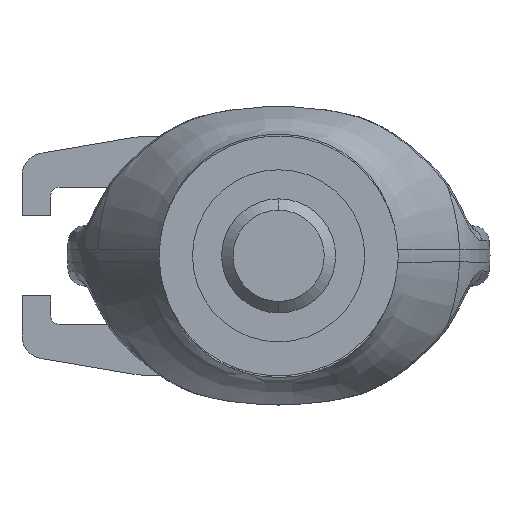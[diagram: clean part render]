
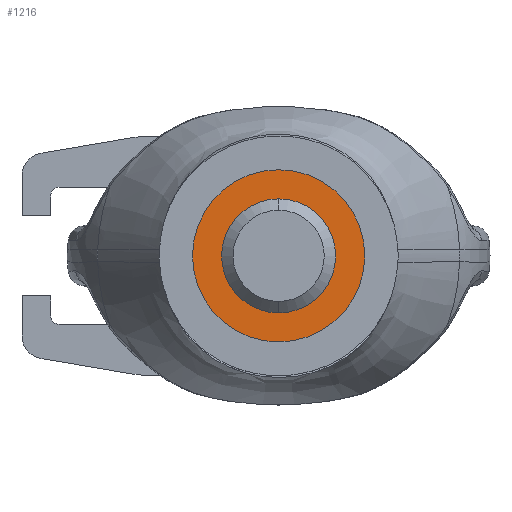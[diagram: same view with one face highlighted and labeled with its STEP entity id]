
A CAD part, front view. The second image highlights one B-rep face of the part: STEP entity #1216.
In plain terms, the highlighted planar face has unit normal (0, -1, 0).
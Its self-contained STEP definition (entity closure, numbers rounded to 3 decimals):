
#1216=ADVANCED_FACE('',(#2484,#2485),#2486,.T.);
#2484=FACE_OUTER_BOUND('',#18051,.T.);
#2485=FACE_BOUND('',#18052,.T.);
#2486=PLANE('',#18053);
#18051=EDGE_LOOP('',(#21087,#21088));
#18052=EDGE_LOOP('',(#21089,#21090));
#18053=AXIS2_PLACEMENT_3D('',#21091,#21092,#21093);
#21087=ORIENTED_EDGE('',*,*,#22917,.F.);
#21088=ORIENTED_EDGE('',*,*,#22900,.F.);
#21089=ORIENTED_EDGE('',*,*,#22903,.F.);
#21090=ORIENTED_EDGE('',*,*,#22915,.F.);
#21091=CARTESIAN_POINT('',(12.655,-38.5,0.));
#21092=DIRECTION('',(0.0,-1.0,0.0));
#21093=DIRECTION('',(0.0,0.0,-1.0));
#22900=EDGE_CURVE('',#25025,#25021,#25027,.F.);
#22903=EDGE_CURVE('',#25029,#25032,#25033,.T.);
#22915=EDGE_CURVE('',#25032,#25029,#25048,.T.);
#22917=EDGE_CURVE('',#25021,#25025,#25050,.F.);
#25021=VERTEX_POINT('',#37549);
#25025=VERTEX_POINT('',#37554);
#25027=CIRCLE('',#37557,15.1);
#25029=VERTEX_POINT('',#37559);
#25032=VERTEX_POINT('',#37563);
#25033=CIRCLE('',#37564,10.0);
#25048=CIRCLE('',#37582,10.0);
#25050=CIRCLE('',#37584,15.1);
#37549=CARTESIAN_POINT('',(0.,-38.5,-15.1));
#37554=CARTESIAN_POINT('',(0.,-38.5,15.1));
#37557=AXIS2_PLACEMENT_3D('',#39126,#39127,#39128);
#37559=CARTESIAN_POINT('',(0.,-38.5,-10.0));
#37563=CARTESIAN_POINT('',(0.,-38.5,10.0));
#37564=AXIS2_PLACEMENT_3D('',#39130,#39131,#39132);
#37582=AXIS2_PLACEMENT_3D('',#39148,#39149,#39150);
#37584=AXIS2_PLACEMENT_3D('',#39151,#39152,#39153);
#39126=CARTESIAN_POINT('',(0.,-38.5,0.));
#39127=DIRECTION('',(0.0,-1.0,0.0));
#39128=DIRECTION('',(0.0,0.0,-1.0));
#39130=CARTESIAN_POINT('',(0.,-38.5,0.));
#39131=DIRECTION('',(0.0,-1.0,0.0));
#39132=DIRECTION('',(0.0,0.0,-1.0));
#39148=CARTESIAN_POINT('',(0.,-38.5,0.));
#39149=DIRECTION('',(0.0,-1.0,0.0));
#39150=DIRECTION('',(0.0,0.0,-1.0));
#39151=CARTESIAN_POINT('',(0.,-38.5,0.));
#39152=DIRECTION('',(0.0,-1.0,0.0));
#39153=DIRECTION('',(0.0,0.0,-1.0));
